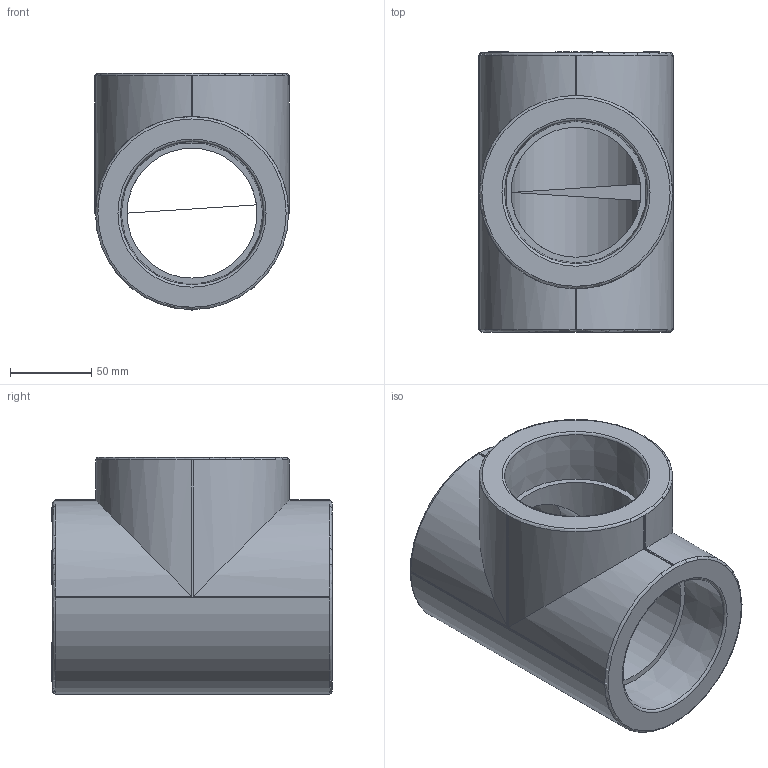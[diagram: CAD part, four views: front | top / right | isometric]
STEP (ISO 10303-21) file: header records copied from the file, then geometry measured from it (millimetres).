
FILE_DESCRIPTION(('STEP AP203'), '1');
FILE_NAME('ÂÐ.752241.033 - VTp.731.0.090', '', ('UNSPECIFIED'), ('UNSPECIFIED'), 'C3D Converter', 'C3D Toolkit', '');
FILE_SCHEMA(('CONFIG_CONTROL_DESIGN'));
Length unit declared in the file: millimetre
Products named in the file (1): ВР.752241.033
Bounding box: 120 x 172.5 x 146 mm (x, y, z)
Volume: 1076130.3 mm3; surface area: 140282.8 mm2
Topology: 1 solids, 1 shells, 1054 faces, 2952 edges, 1958 vertices
Faces by surface type: extrusion 610, plane 398, cylinder 37, torus 6, cone 3
Full cylindrical faces by diameter (mm): 8 x1, 80 x2
Entity records: 39010 total; most frequent: CARTESIAN_POINT 15134, ORIENTED_EDGE 5878, DIRECTION 2962, EDGE_CURVE 2939, VECTOR 1990, VERTEX_POINT 1958, B_SPLINE_CURVE_WITH_KNOTS 1832, LINE 1380
